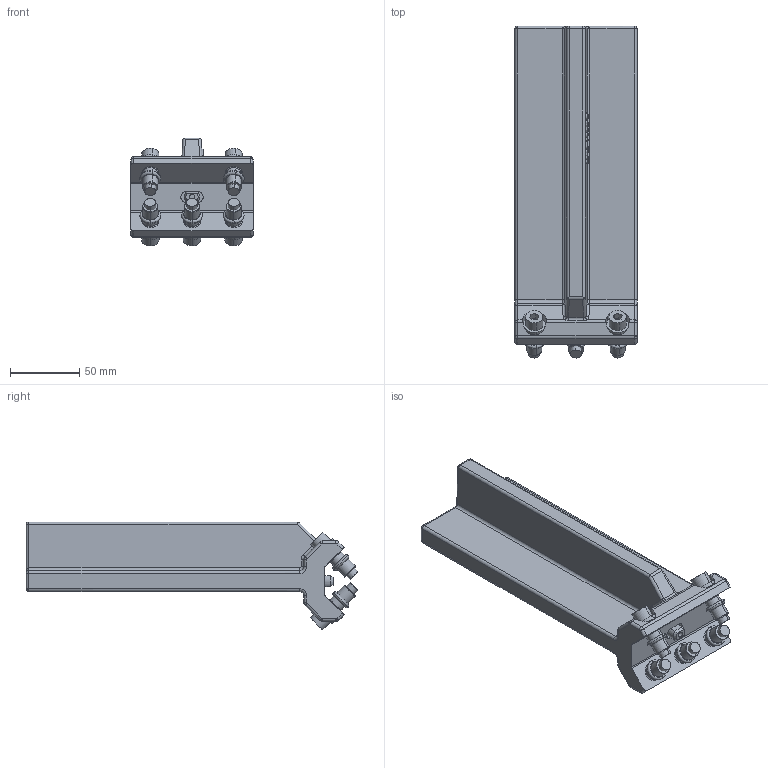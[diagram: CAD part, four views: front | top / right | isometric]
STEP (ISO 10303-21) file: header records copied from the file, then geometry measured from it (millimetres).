
FILE_DESCRIPTION(('CATIA V5 STEP Exchange'),'2;1');
FILE_NAME('C:\Users\User\Desktop\stp\EGT235.stp','2017-07-21T01:39:14+00:00',('none'),('none'),'CATIA Version 5 Release 21 GA (IN-10)','CATIA V5 STEP AP203','none');
FILE_SCHEMA(('CONFIG_CONTROL_DESIGN'));
Length unit declared in the file: millimetre
Products named in the file (1): EGT235
Bounding box: 88 x 238.94 x 77.68 mm (x, y, z)
Volume: 467316.8 mm3; surface area: 87248.4 mm2
Topology: 29 solids, 29 shells, 1314 faces, 3571 edges, 2328 vertices
Faces by surface type: plane 956, cylinder 162, extrusion 100, cone 32, torus 24, revolution 18, sphere 12, bspline 10
Entity records: 42933 total; most frequent: CARTESIAN_POINT 10666, ORIENTED_EDGE 7114, DIRECTION 5658, EDGE_CURVE 3557, VECTOR 2989, LINE 2889, VERTEX_POINT 2328, AXIS2_PLACEMENT_3D 1497
